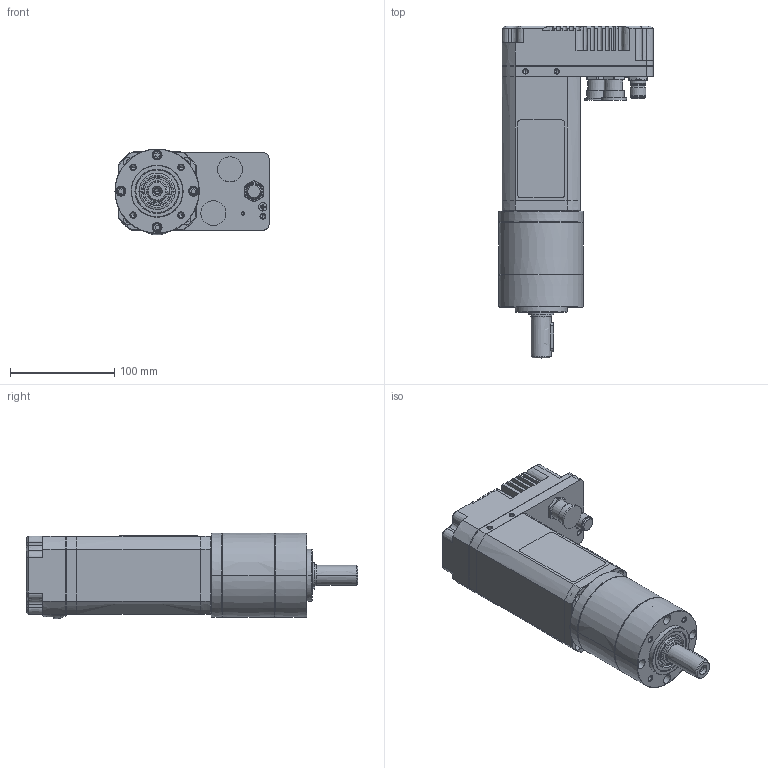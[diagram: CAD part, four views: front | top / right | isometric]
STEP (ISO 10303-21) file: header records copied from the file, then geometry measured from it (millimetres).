
FILE_DESCRIPTION((''),'2;1');
FILE_NAME('8037E_2STAGES','2018-08-28T',('ALECMA1'),('CROUZET-AUTOMATISMES'),'CREO PARAMETRIC BY PTC INC, 2017170','CREO PARAMETRIC BY PTC INC, 2017170','');
FILE_SCHEMA(('AP203_CONFIGURATION_CONTROLLED_3D_DESIGN_OF_MECHANICAL_PARTS_AND_ASSEMBLIES_MIM_LF { 1 0 10303 403 2 1 2 }'));
Products named in the file (1): 8037E_2STAGES
Bounding box: 148 x 318.7 x 82.5 mm (x, y, z)
Surface area: 156469.6 mm2 (no closed solid volume)
Topology: 0 solids, 0 shells, 687 faces, 3528 edges, 3491 vertices
Faces by surface type: bspline 665, torus 18, sphere 4
Entity records: 69335 total; most frequent: CARTESIAN_POINT 31663, DIRECTION 5606, TRIMMED_CURVE 4753, VECTOR 3969, LINE 3969, DEFINITIONAL_REPRESENTATION 3475, PCURVE 3475, COMPOSITE_CURVE_SEGMENT 3475
